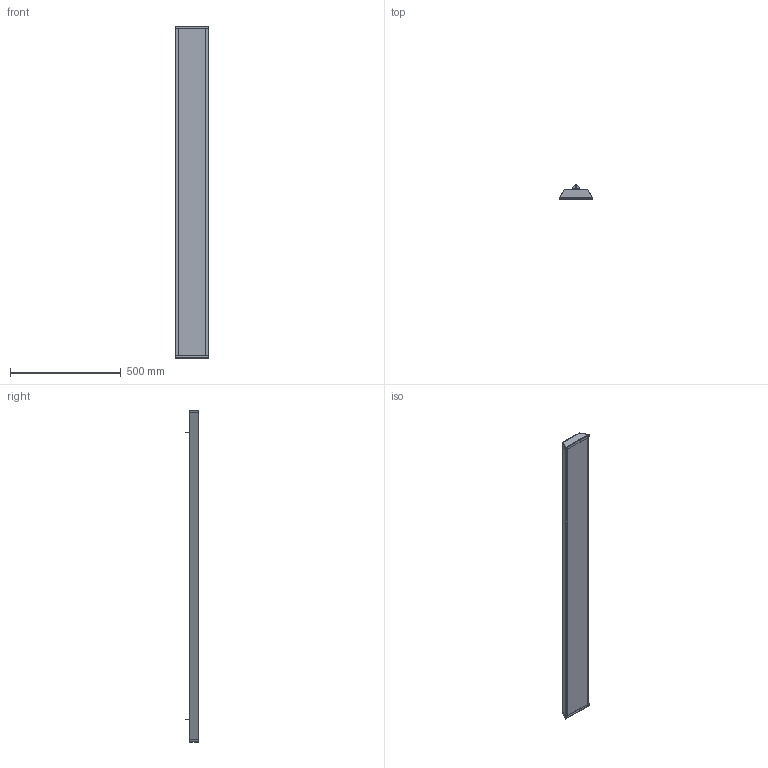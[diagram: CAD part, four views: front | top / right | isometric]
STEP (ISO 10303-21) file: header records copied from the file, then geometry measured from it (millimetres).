
FILE_DESCRIPTION(('STEP AP203'), '1');
FILE_NAME('ÄÑÎ 161 15 - Òðåéä Ñåêòîð', '', ('UNSPECIFIED'), ('UNSPECIFIED'), 'ASCON STEP Converter 1.6', 'ASCON Math Kernel', '');
FILE_SCHEMA(('CONFIG_CONTROL_DESIGN'));
Length unit declared in the file: millimetre
Products named in the file (6): ФСВ307 00 000-03; ДСО 161 15 01; ДСО 161 15 02; ДСО 161 15 03
Assembly tree (5 placements, depth 2):
  ФСВ307 00 000-03
    ДСО 161 15 01
    ДСО 161 15 02
    ДСО 161 15 02
    ДСО 161 15 03
    ДСО 161 15 03
Bounding box: 152.67 x 61.1 x 1502 mm (x, y, z)
Volume: 635307.5 mm3; surface area: 1124028.9 mm2
Topology: 6 solids, 6 shells, 223 faces, 553 edges, 342 vertices
Faces by surface type: cylinder 103, plane 88, bspline 32
Full cylindrical faces by diameter (mm): 2.5 x12, 3.5 x44, 5 x1, 8 x2
Entity records: 10520 total; most frequent: CARTESIAN_POINT 3261, ORIENTED_EDGE 988, DIRECTION 974, EDGE_CURVE 494, EDGE_LOOP 400, AXIS2_PLACEMENT_3D 371, VERTEX_POINT 342, FACE_BOUND 282
